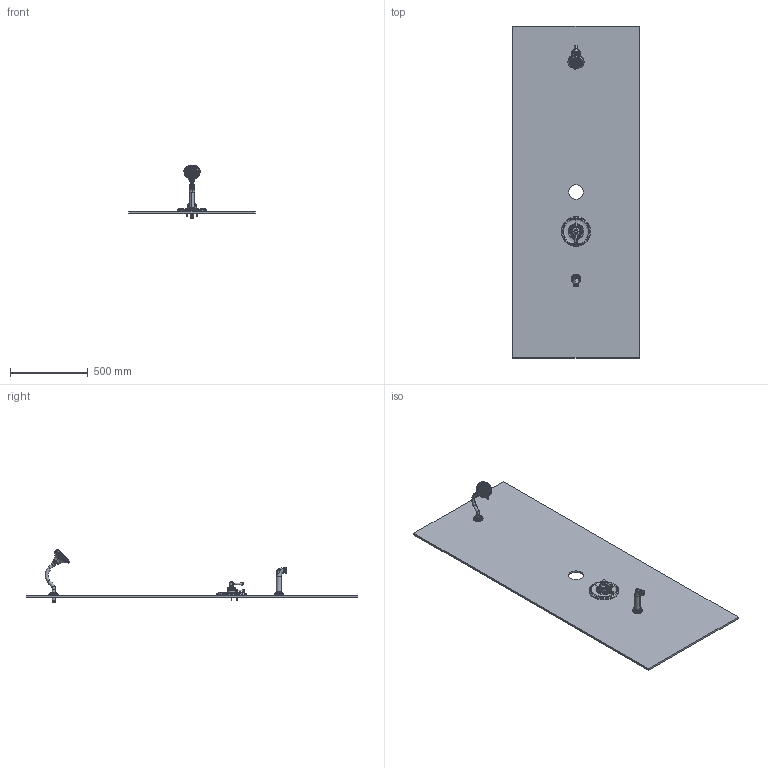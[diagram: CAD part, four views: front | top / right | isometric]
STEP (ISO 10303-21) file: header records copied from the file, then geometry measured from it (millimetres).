
FILE_DESCRIPTION (( 'STEP AP214' ), '1' );
FILE_NAME ('S5892TRMTC.STEP', '2025-11-20T13:03:53', ( '' ), ( '' ), 'SwSTEP 2.0', 'SolidWorks 2023', '' );
FILE_SCHEMA (( 'AUTOMOTIVE_DESIGN' ));
Products named in the file (1): S5892TRMTC
Bounding box: 812.8 x 2133.6 x 344.4 mm (x, y, z)
Surface area: 3676209.8 mm2 (no closed solid volume)
Topology: 0 solids, 134 shells, 424 faces, 1733 edges, 1381 vertices
Faces by surface type: bspline 112, cone 102, torus 85, cylinder 80, plane 43, sphere 2
Entity records: 43916 total; most frequent: CARTESIAN_POINT 31088, DIRECTION 2397, ORIENTED_EDGE 2375, EDGE_CURVE 1727, VERTEX_POINT 1381, AXIS2_PLACEMENT_3D 1068, CIRCLE 755, B_SPLINE_CURVE_WITH_KNOTS 661
